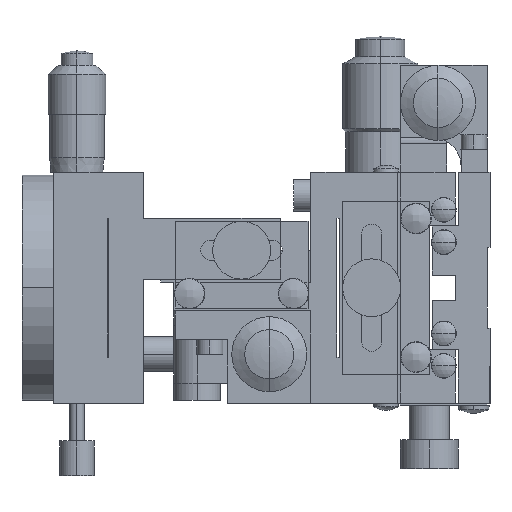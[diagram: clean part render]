
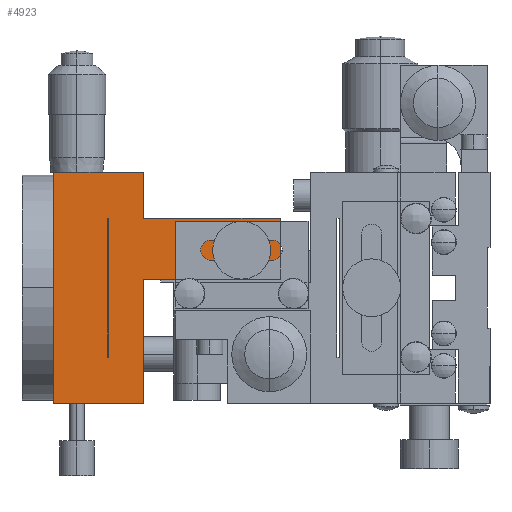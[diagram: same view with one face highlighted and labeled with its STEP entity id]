
A CAD part, left-side view. The second image highlights one B-rep face of the part: STEP entity #4923.
In plain terms, the highlighted planar face has unit normal (-1, 0, 0).
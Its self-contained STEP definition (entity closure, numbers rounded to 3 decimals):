
#900 = FACE_BOUND ( 'NONE', #5395, .T. ) ;
#949 = DIRECTION ( 'NONE',  ( 1., 0., 0. ) ) ;
#962 = CARTESIAN_POINT ( 'NONE',  ( -20., 60., 0. ) ) ;
#1268 = FACE_OUTER_BOUND ( 'NONE', #6598, .T. ) ;
#1270 = PLANE ( 'NONE',  #13812 ) ;
#1304 = FACE_BOUND ( 'NONE', #5565, .T. ) ;
#1463 = DIRECTION ( 'NONE',  ( 0., 0., -1. ) ) ;
#1604 = CARTESIAN_POINT ( 'NONE',  ( -20., 54., -40. ) ) ;
#1606 = CARTESIAN_POINT ( 'NONE',  ( -20., 54., -18.499 ) ) ;
#1607 = CARTESIAN_POINT ( 'NONE',  ( -20., 60.15, -8. ) ) ;
#1608 = CARTESIAN_POINT ( 'NONE',  ( -20., 54., -8. ) ) ;
#1609 = CARTESIAN_POINT ( 'NONE',  ( -20., 54., 0. ) ) ;
#1617 = CARTESIAN_POINT ( 'NONE',  ( -20., 69.5, -40. ) ) ;
#1653 = CARTESIAN_POINT ( 'NONE',  ( -20., 53.999, -18.5 ) ) ;
#1663 = CARTESIAN_POINT ( 'NONE',  ( -20., 69.5, 0. ) ) ;
#1692 = CARTESIAN_POINT ( 'NONE',  ( -20., 30.3, -18.5 ) ) ;
#1694 = CARTESIAN_POINT ( 'NONE',  ( -20., 60., -8. ) ) ;
#1697 = CARTESIAN_POINT ( 'NONE',  ( -20., 60., -32. ) ) ;
#1698 = CARTESIAN_POINT ( 'NONE',  ( -20., 60.15, -32. ) ) ;
#1701 = CARTESIAN_POINT ( 'NONE',  ( -20., 30.3, -8. ) ) ;
#2890 = VERTEX_POINT ( 'NONE', #1698 ) ;
#2895 = VERTEX_POINT ( 'NONE', #1694 ) ;
#2897 = VERTEX_POINT ( 'NONE', #1697 ) ;
#2898 = VERTEX_POINT ( 'NONE', #1692 ) ;
#2926 = VERTEX_POINT ( 'NONE', #1701 ) ;
#3422 = VERTEX_POINT ( 'NONE', #1653 ) ;
#3426 = VERTEX_POINT ( 'NONE', #1663 ) ;
#3827 = VERTEX_POINT ( 'NONE', #1617 ) ;
#3832 = VERTEX_POINT ( 'NONE', #1609 ) ;
#3835 = VERTEX_POINT ( 'NONE', #1607 ) ;
#3841 = VERTEX_POINT ( 'NONE', #1608 ) ;
#3842 = VERTEX_POINT ( 'NONE', #1606 ) ;
#3858 = VERTEX_POINT ( 'NONE', #1604 ) ;
#4923 = ADVANCED_FACE ( 'NONE', ( #1268, #900, #1304 ), #1270, .F. ) ;
#5303 = VERTEX_POINT ( 'NONE', #27088 ) ;
#5306 = VERTEX_POINT ( 'NONE', #27091 ) ;
#5395 = EDGE_LOOP ( 'NONE', ( #6993, #6992, #6991, #6990 ) ) ;
#5565 = EDGE_LOOP ( 'NONE', ( #6989, #6988 ) ) ;
#6598 = EDGE_LOOP ( 'NONE', ( #7002, #7001, #7000, #6999, #6998, #6997, #6996, #6995, #6994 ) ) ;
#6988 = ORIENTED_EDGE ( 'NONE', *, *, #17504, .T. ) ;
#6989 = ORIENTED_EDGE ( 'NONE', *, *, #17638, .T. ) ;
#6990 = ORIENTED_EDGE ( 'NONE', *, *, #17637, .T. ) ;
#6991 = ORIENTED_EDGE ( 'NONE', *, *, #17636, .F. ) ;
#6992 = ORIENTED_EDGE ( 'NONE', *, *, #17635, .F. ) ;
#6993 = ORIENTED_EDGE ( 'NONE', *, *, #17634, .T. ) ;
#6994 = ORIENTED_EDGE ( 'NONE', *, *, #17633, .T. ) ;
#6995 = ORIENTED_EDGE ( 'NONE', *, *, #17632, .F. ) ;
#6996 = ORIENTED_EDGE ( 'NONE', *, *, #17631, .F. ) ;
#6997 = ORIENTED_EDGE ( 'NONE', *, *, #17625, .T. ) ;
#6998 = ORIENTED_EDGE ( 'NONE', *, *, #17605, .T. ) ;
#6999 = ORIENTED_EDGE ( 'NONE', *, *, #17630, .T. ) ;
#7000 = ORIENTED_EDGE ( 'NONE', *, *, #17629, .F. ) ;
#7001 = ORIENTED_EDGE ( 'NONE', *, *, #17628, .F. ) ;
#7002 = ORIENTED_EDGE ( 'NONE', *, *, #17627, .T. ) ;
#11923 = CIRCLE ( 'NONE', #11930, 1.5 ) ;
#11930 = AXIS2_PLACEMENT_3D ( 'NONE', #19399, #19400, #19401 ) ;
#12276 = VECTOR ( 'NONE', #19712, 1000. ) ;
#12300 = VECTOR ( 'NONE', #19771, 1000. ) ;
#12359 = VECTOR ( 'NONE', #19777, 1000. ) ;
#12364 = VECTOR ( 'NONE', #19783, 1000. ) ;
#12367 = VECTOR ( 'NONE', #19781, 1000. ) ;
#12370 = VECTOR ( 'NONE', #19801, 1000. ) ;
#12373 = VECTOR ( 'NONE', #19786, 1000. ) ;
#12374 = VECTOR ( 'NONE', #19789, 1000. ) ;
#12376 = VECTOR ( 'NONE', #19792, 1000. ) ;
#12377 = VECTOR ( 'NONE', #19795, 1000. ) ;
#12380 = VECTOR ( 'NONE', #19799, 1000. ) ;
#12382 = VECTOR ( 'NONE', #19807, 1000. ) ;
#12384 = VECTOR ( 'NONE', #19805, 1000. ) ;
#12391 = CIRCLE ( 'NONE', #12395, 1.5 ) ;
#12395 = AXIS2_PLACEMENT_3D ( 'NONE', #19810, #19811, #19812 ) ;
#13812 = AXIS2_PLACEMENT_3D ( 'NONE', #962, #949, #1463 ) ;
#17504 = EDGE_CURVE ( 'NONE', #5306, #5303, #11923, .T. ) ;
#17605 = EDGE_CURVE ( 'NONE', #3858, #3842, #19700, .T. ) ;
#17625 = EDGE_CURVE ( 'NONE', #3842, #3422, #19749, .T. ) ;
#17627 = EDGE_CURVE ( 'NONE', #3841, #3832, #19748, .T. ) ;
#17628 = EDGE_CURVE ( 'NONE', #3426, #3832, #19778, .T. ) ;
#17629 = EDGE_CURVE ( 'NONE', #3827, #3426, #19767, .T. ) ;
#17630 = EDGE_CURVE ( 'NONE', #3827, #3858, #19784, .T. ) ;
#17631 = EDGE_CURVE ( 'NONE', #2898, #3422, #19787, .T. ) ;
#17632 = EDGE_CURVE ( 'NONE', #2926, #2898, #19790, .T. ) ;
#17633 = EDGE_CURVE ( 'NONE', #2926, #3841, #19793, .T. ) ;
#17634 = EDGE_CURVE ( 'NONE', #3835, #2895, #19796, .T. ) ;
#17635 = EDGE_CURVE ( 'NONE', #2897, #2895, #19773, .T. ) ;
#17636 = EDGE_CURVE ( 'NONE', #2890, #2897, #19802, .T. ) ;
#17637 = EDGE_CURVE ( 'NONE', #2890, #3835, #19779, .T. ) ;
#17638 = EDGE_CURVE ( 'NONE', #5303, #5306, #12391, .T. ) ;
#19399 = CARTESIAN_POINT ( 'NONE',  ( -20., 37., -13.5 ) ) ;
#19400 = DIRECTION ( 'NONE',  ( 1., 0., 0. ) ) ;
#19401 = DIRECTION ( 'NONE',  ( 0., 0., 1. ) ) ;
#19700 = LINE ( 'NONE', #19710, #12276 ) ;
#19710 = CARTESIAN_POINT ( 'NONE',  ( -20., 54., 0. ) ) ;
#19712 = DIRECTION ( 'NONE',  ( 0., 0., 1. ) ) ;
#19748 = LINE ( 'NONE', #19776, #12359 ) ;
#19749 = LINE ( 'NONE', #19770, #12300 ) ;
#19767 = LINE ( 'NONE', #19782, #12364 ) ;
#19770 = CARTESIAN_POINT ( 'NONE',  ( -20., 53.999, -18.5 ) ) ;
#19771 = DIRECTION ( 'NONE',  ( 0., -0.707, -0.707 ) ) ;
#19773 = LINE ( 'NONE', #19800, #12370 ) ;
#19776 = CARTESIAN_POINT ( 'NONE',  ( -20., 54., 0. ) ) ;
#19777 = DIRECTION ( 'NONE',  ( 0., 0., 1. ) ) ;
#19778 = LINE ( 'NONE', #19780, #12367 ) ;
#19779 = LINE ( 'NONE', #19806, #12382 ) ;
#19780 = CARTESIAN_POINT ( 'NONE',  ( -20., 70., 0. ) ) ;
#19781 = DIRECTION ( 'NONE',  ( 0., -1., 0. ) ) ;
#19782 = CARTESIAN_POINT ( 'NONE',  ( -20., 69.5, -124.139 ) ) ;
#19783 = DIRECTION ( 'NONE',  ( 0., 0., 1. ) ) ;
#19784 = LINE ( 'NONE', #19785, #12373 ) ;
#19785 = CARTESIAN_POINT ( 'NONE',  ( -20., 70., -40. ) ) ;
#19786 = DIRECTION ( 'NONE',  ( 0., -1., 0. ) ) ;
#19787 = LINE ( 'NONE', #19788, #12374 ) ;
#19788 = CARTESIAN_POINT ( 'NONE',  ( -20., 30.3, -18.5 ) ) ;
#19789 = DIRECTION ( 'NONE',  ( 0., 1., 0. ) ) ;
#19790 = LINE ( 'NONE', #19791, #12376 ) ;
#19791 = CARTESIAN_POINT ( 'NONE',  ( -20., 30.3, -8. ) ) ;
#19792 = DIRECTION ( 'NONE',  ( 0., 0., -1. ) ) ;
#19793 = LINE ( 'NONE', #19794, #12377 ) ;
#19794 = CARTESIAN_POINT ( 'NONE',  ( -20., 30.3, -8. ) ) ;
#19795 = DIRECTION ( 'NONE',  ( 0., 1., 0. ) ) ;
#19796 = LINE ( 'NONE', #19798, #12380 ) ;
#19798 = CARTESIAN_POINT ( 'NONE',  ( -20., 60.15, -8. ) ) ;
#19799 = DIRECTION ( 'NONE',  ( 0., -1., 0. ) ) ;
#19800 = CARTESIAN_POINT ( 'NONE',  ( -20., 60., 0. ) ) ;
#19801 = DIRECTION ( 'NONE',  ( 0., 0., 1. ) ) ;
#19802 = LINE ( 'NONE', #19804, #12384 ) ;
#19804 = CARTESIAN_POINT ( 'NONE',  ( -20., 60.15, -32. ) ) ;
#19805 = DIRECTION ( 'NONE',  ( 0., -1., 0. ) ) ;
#19806 = CARTESIAN_POINT ( 'NONE',  ( -20., 60.15, -32. ) ) ;
#19807 = DIRECTION ( 'NONE',  ( 0., 0., 1. ) ) ;
#19810 = CARTESIAN_POINT ( 'NONE',  ( -20., 37., -13.5 ) ) ;
#19811 = DIRECTION ( 'NONE',  ( 1., 0., 0. ) ) ;
#19812 = DIRECTION ( 'NONE',  ( 0., 0., 1. ) ) ;
#27088 = CARTESIAN_POINT ( 'NONE',  ( -20., 37., -15. ) ) ;
#27091 = CARTESIAN_POINT ( 'NONE',  ( -20., 37., -12. ) ) ;
